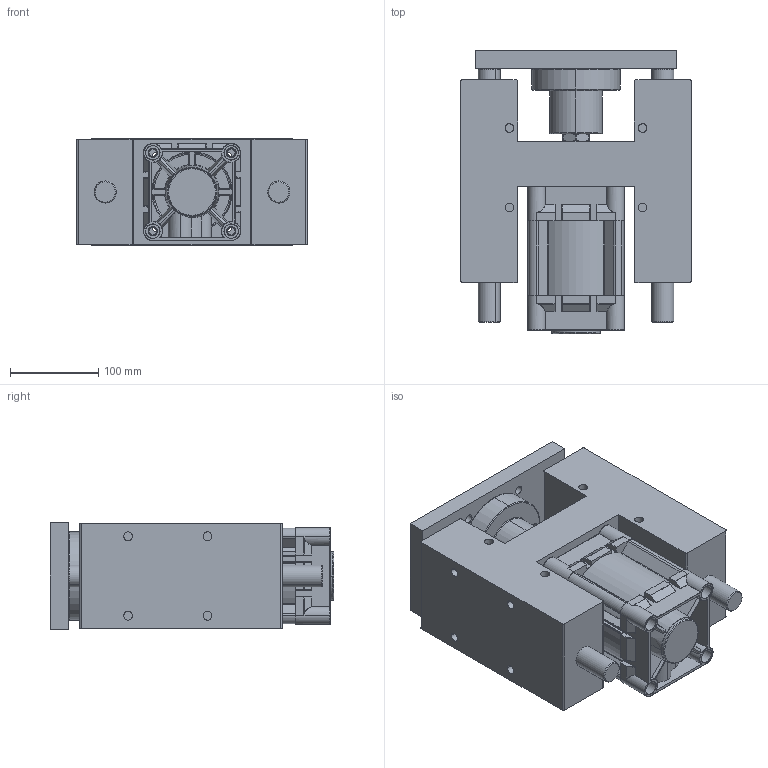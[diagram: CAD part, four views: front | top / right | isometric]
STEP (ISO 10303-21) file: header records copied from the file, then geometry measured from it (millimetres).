
FILE_DESCRIPTION (( 'STEP AP203' ), '1' );
FILE_NAME ('KDNT100X25H-YATAK.STEP', '2016-05-21T09:49:08', ( 'user' ), ( '' ), 'SwSTEP 2.0', 'SolidWorks 2013', '' );
FILE_SCHEMA (( 'CONFIG_CONTROL_DESIGN' ));
Length unit declared in the file: millimetre
Products named in the file (11): DNC-H-YATAK MÝL YATAÐI 100; ARKA KAPAK  100; KDNT 100X25 BORU; ORTA PÝSTON 100; 烰 KAPAK  100; Piston Mili 100x25; DNC-H-YATAK 100; SOMUN 100; DNC-H-YATAK M尳 100x25; KDNT100X25H-YATAK; DNC-H-YATAK TABLA 100
Assembly tree (11 placements, depth 2):
  KDNT100X25H-YATAK
    DNC-H-YATAK 100
    DNC-H-YATAK M尳 100x25  x2
    DNC-H-YATAK TABLA 100
    DNC-H-YATAK MÝL YATAÐI 100
    ARKA KAPAK  100
    KDNT 100X25 BORU
    ORTA PÝSTON 100
    烰 KAPAK  100
    Piston Mili 100x25
    SOMUN 100
Bounding box: 262 x 321.2 x 120.5 mm (x, y, z)
Volume: 6090176.8 mm3; surface area: 795490 mm2
Topology: 11 solids, 11 shells, 1278 faces, 3199 edges, 2021 vertices
Faces by surface type: cylinder 546, plane 378, cone 196, bspline 146, torus 12
Entity records: 52178 total; most frequent: CARTESIAN_POINT 22175, ORIENTED_EDGE 6346, DIRECTION 5514, EDGE_CURVE 3173, AXIS2_PLACEMENT_3D 2139, VERTEX_POINT 2013, EDGE_LOOP 1440, FACE_OUTER_BOUND 1270
